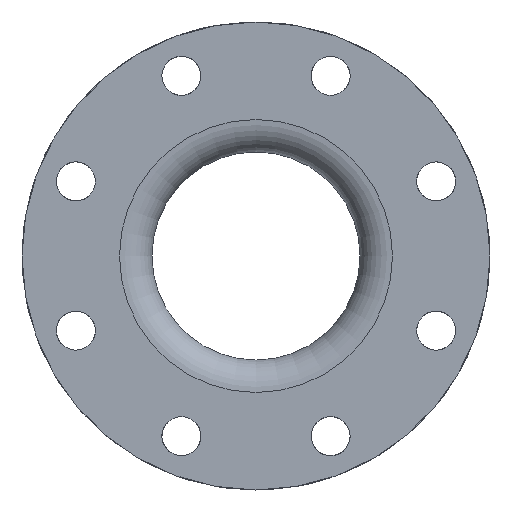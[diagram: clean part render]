
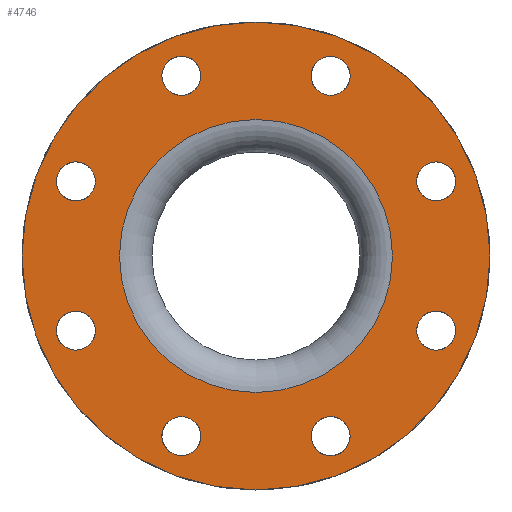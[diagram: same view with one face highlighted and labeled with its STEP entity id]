
A CAD part, front view. The second image highlights one B-rep face of the part: STEP entity #4746.
In plain terms, the highlighted planar face has unit normal (0, -1, 0).
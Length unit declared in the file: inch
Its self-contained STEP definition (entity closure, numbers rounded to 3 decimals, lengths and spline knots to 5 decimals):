
#126=FACE_BOUND('',#722,.T.);
#127=FACE_BOUND('',#723,.T.);
#128=FACE_BOUND('',#724,.T.);
#129=FACE_BOUND('',#725,.T.);
#130=FACE_BOUND('',#726,.T.);
#131=FACE_BOUND('',#727,.T.);
#132=FACE_BOUND('',#728,.T.);
#133=FACE_BOUND('',#729,.T.);
#134=FACE_BOUND('',#730,.T.);
#205=PLANE('',#5233);
#377=FACE_OUTER_BOUND('',#721,.T.);
#721=EDGE_LOOP('',(#3544));
#722=EDGE_LOOP('',(#3545));
#723=EDGE_LOOP('',(#3546));
#724=EDGE_LOOP('',(#3547));
#725=EDGE_LOOP('',(#3548));
#726=EDGE_LOOP('',(#3549));
#727=EDGE_LOOP('',(#3550));
#728=EDGE_LOOP('',(#3551));
#729=EDGE_LOOP('',(#3552));
#730=EDGE_LOOP('',(#3553));
#1527=CIRCLE('',#5166,0.375);
#1529=CIRCLE('',#5169,0.375);
#1531=CIRCLE('',#5172,0.375);
#1533=CIRCLE('',#5175,0.375);
#1535=CIRCLE('',#5178,0.375);
#1537=CIRCLE('',#5181,0.375);
#1539=CIRCLE('',#5184,0.375);
#1541=CIRCLE('',#5187,0.375);
#1568=CIRCLE('',#5232,4.5);
#1569=CIRCLE('',#5234,2.625);
#1961=VERTEX_POINT('',#7821);
#1963=VERTEX_POINT('',#7826);
#1965=VERTEX_POINT('',#7831);
#1967=VERTEX_POINT('',#7836);
#1969=VERTEX_POINT('',#7841);
#1971=VERTEX_POINT('',#7846);
#1973=VERTEX_POINT('',#7851);
#1975=VERTEX_POINT('',#7856);
#2002=VERTEX_POINT('',#7928);
#2003=VERTEX_POINT('',#7931);
#2516=EDGE_CURVE('',#1961,#1961,#1527,.T.);
#2518=EDGE_CURVE('',#1963,#1963,#1529,.T.);
#2520=EDGE_CURVE('',#1965,#1965,#1531,.T.);
#2522=EDGE_CURVE('',#1967,#1967,#1533,.T.);
#2524=EDGE_CURVE('',#1969,#1969,#1535,.T.);
#2526=EDGE_CURVE('',#1971,#1971,#1537,.T.);
#2528=EDGE_CURVE('',#1973,#1973,#1539,.T.);
#2530=EDGE_CURVE('',#1975,#1975,#1541,.T.);
#2557=EDGE_CURVE('',#2002,#2002,#1568,.T.);
#2558=EDGE_CURVE('',#2003,#2003,#1569,.T.);
#3544=ORIENTED_EDGE('',*,*,#2557,.T.);
#3545=ORIENTED_EDGE('',*,*,#2516,.T.);
#3546=ORIENTED_EDGE('',*,*,#2518,.T.);
#3547=ORIENTED_EDGE('',*,*,#2520,.T.);
#3548=ORIENTED_EDGE('',*,*,#2522,.T.);
#3549=ORIENTED_EDGE('',*,*,#2524,.T.);
#3550=ORIENTED_EDGE('',*,*,#2526,.T.);
#3551=ORIENTED_EDGE('',*,*,#2528,.T.);
#3552=ORIENTED_EDGE('',*,*,#2530,.T.);
#3553=ORIENTED_EDGE('',*,*,#2558,.F.);
#4746=ADVANCED_FACE('',(#377,#126,#127,#128,#129,#130,#131,#132,#133,#134),
#205,.T.);
#5166=AXIS2_PLACEMENT_3D('',#7822,#6248,#6249);
#5169=AXIS2_PLACEMENT_3D('',#7827,#6254,#6255);
#5172=AXIS2_PLACEMENT_3D('',#7832,#6260,#6261);
#5175=AXIS2_PLACEMENT_3D('',#7837,#6266,#6267);
#5178=AXIS2_PLACEMENT_3D('',#7842,#6272,#6273);
#5181=AXIS2_PLACEMENT_3D('',#7847,#6278,#6279);
#5184=AXIS2_PLACEMENT_3D('',#7852,#6284,#6285);
#5187=AXIS2_PLACEMENT_3D('',#7857,#6290,#6291);
#5232=AXIS2_PLACEMENT_3D('',#7929,#6380,#6381);
#5233=AXIS2_PLACEMENT_3D('',#7930,#6382,#6383);
#5234=AXIS2_PLACEMENT_3D('',#7932,#6384,#6385);
#6248=DIRECTION('center_axis',(0.,1.,0.));
#6249=DIRECTION('ref_axis',(0.707,0.,0.707));
#6254=DIRECTION('center_axis',(0.,1.,0.));
#6255=DIRECTION('ref_axis',(1.,0.,0.));
#6260=DIRECTION('center_axis',(0.,1.,0.));
#6261=DIRECTION('ref_axis',(0.707,0.,-0.707));
#6266=DIRECTION('center_axis',(0.,1.,0.));
#6267=DIRECTION('ref_axis',(0.,0.,-1.));
#6272=DIRECTION('center_axis',(0.,1.,0.));
#6273=DIRECTION('ref_axis',(-0.707,0.,-0.707));
#6278=DIRECTION('center_axis',(0.,1.,0.));
#6279=DIRECTION('ref_axis',(-1.,0.,0.));
#6284=DIRECTION('center_axis',(0.,1.,0.));
#6285=DIRECTION('ref_axis',(-0.707,0.,0.707));
#6290=DIRECTION('center_axis',(0.,1.,0.));
#6291=DIRECTION('ref_axis',(0.,0.,
1.));
#6380=DIRECTION('center_axis',(0.,-1.,0.));
#6381=DIRECTION('ref_axis',(1.,0.,0.));
#6382=DIRECTION('center_axis',(0.,-1.,0.));
#6383=DIRECTION('ref_axis',(0.,0.,-1.));
#6384=DIRECTION('center_axis',(0.,-1.,0.));
#6385=DIRECTION('ref_axis',(1.,0.,0.));
#7821=CARTESIAN_POINT('',(3.19938,-9.,-1.70023));
#7822=CARTESIAN_POINT('Origin',(3.46455,-9.,-1.43506));
#7826=CARTESIAN_POINT('',(1.06006,-9.,-3.46455));
#7827=CARTESIAN_POINT('Origin',(1.43506,-9.,-3.46455));
#7831=CARTESIAN_POINT('',(-1.70023,-9.,-3.19938));
#7832=CARTESIAN_POINT('Origin',(-1.43506,-9.,-3.46455));
#7836=CARTESIAN_POINT('',(-3.46455,-9.,-1.06006));
#7837=CARTESIAN_POINT('Origin',(-3.46455,-9.,-1.43506));
#7841=CARTESIAN_POINT('',(-3.19938,-9.,1.70023));
#7842=CARTESIAN_POINT('Origin',(-3.46455,-9.,1.43506));
#7846=CARTESIAN_POINT('',(-1.06006,-9.,3.46455));
#7847=CARTESIAN_POINT('Origin',(-1.43506,-9.,3.46455));
#7851=CARTESIAN_POINT('',(1.70023,-9.,3.19938));
#7852=CARTESIAN_POINT('Origin',(1.43506,-9.,3.46455));
#7856=CARTESIAN_POINT('',(3.46455,-9.,1.06006));
#7857=CARTESIAN_POINT('Origin',(3.46455,-9.,1.43506));
#7928=CARTESIAN_POINT('',(4.5,-9.,0.));
#7929=CARTESIAN_POINT('Origin',(0.,-9.,
0.));
#7930=CARTESIAN_POINT('Origin',(3.5625,-9.,0.));
#7931=CARTESIAN_POINT('',(2.625,-9.,0.));
#7932=CARTESIAN_POINT('Origin',(0.,-9.,0.));
